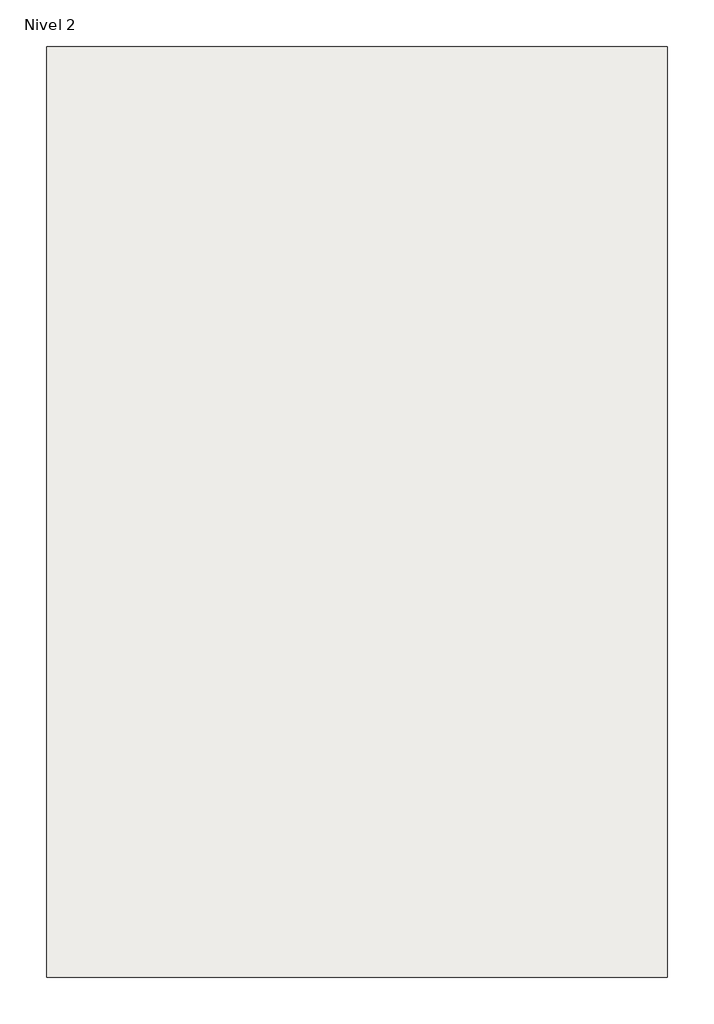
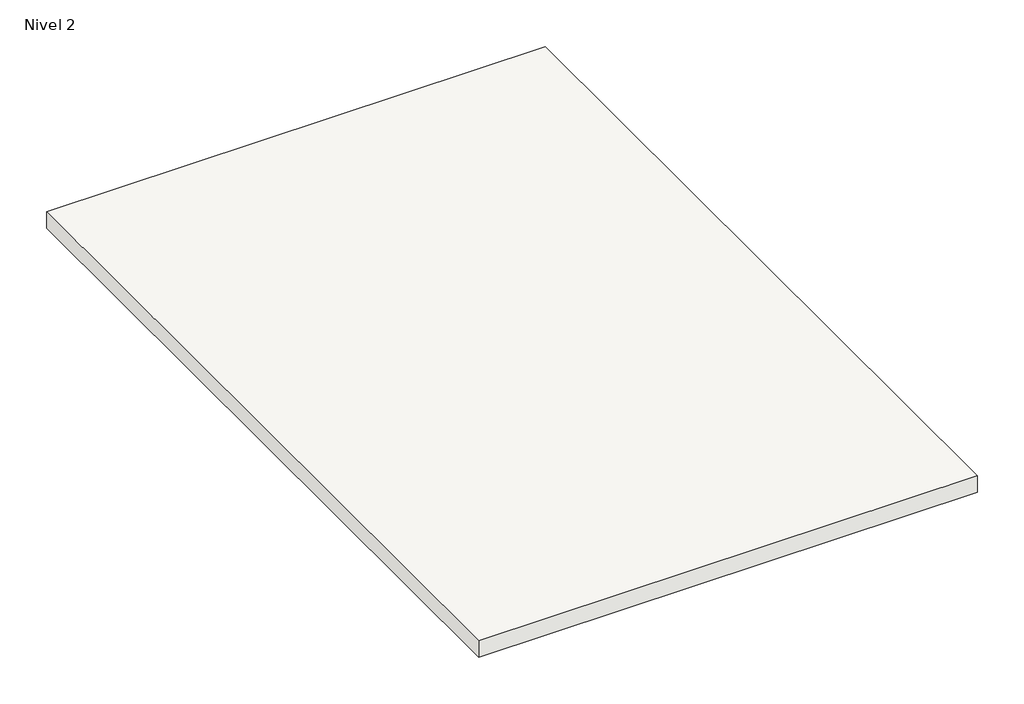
# One storey: 1 slab.
"""IFC4 building model written with IfcOpenShell, lengths in millimetres."""

from ifc_helpers import new_model, si_unit, frame, origin, place, context, project, spatial, polyline, outline, extrude, element, save

model = new_model("IFC4")

# Units and contexts
model_context = context("Model", 3, world=origin())
ifc_project = project(units=[si_unit("LENGTHUNIT", "METRE", prefix="MILLI")], contexts=[model_context])

# Site, building, storey
site = spatial("IfcSite", under=ifc_project)
building = spatial("IfcBuilding", under=site)
storey = spatial("IfcBuildingStorey", under=building, Name="Nivel 2", Elevation=3000.0)

# Slab
placement = place(None, origin())
element("IfcSlab", 1, ObjectType="Genérico 300 mm", at=placement, inside=storey, context=model_context, shape_type="SweptSolid", body=[
    extrude(outline(polyline([(3073.132874, 10540.2228482), (3073.132874, -2359.7771518), (-5526.867126, -2359.7771518), (-5526.867126, 10540.2228482), (3073.132874, 10540.2228482)])), frame((0.0, 0.0, 3000.0), z_axis=(0.0, 0.0, 1.0), x_axis=(1.0, 0.0, 0.0)), (0.0, 0.0, 1.0), 300.0),
])

save(model, "model.ifc")
